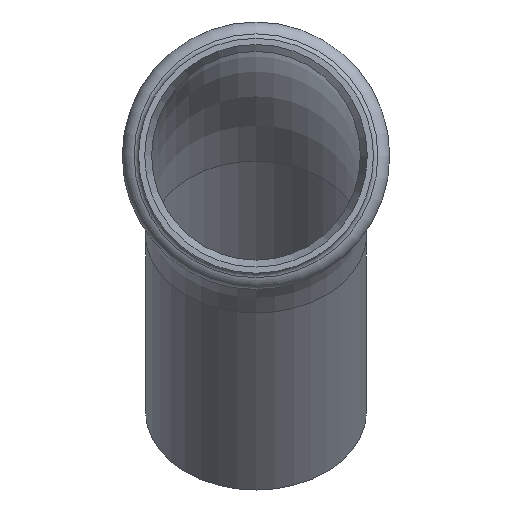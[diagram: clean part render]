
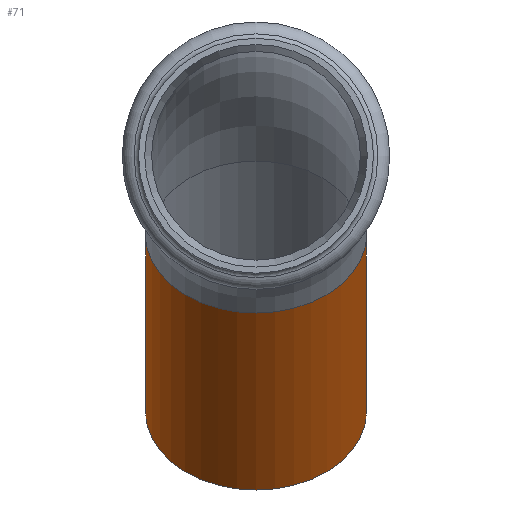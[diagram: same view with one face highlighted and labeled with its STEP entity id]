
A CAD part, front view. The second image highlights one B-rep face of the part: STEP entity #71.
In plain terms, the highlighted cylindrical face has radius 27 mm (diameter 54 mm), a full revolution.
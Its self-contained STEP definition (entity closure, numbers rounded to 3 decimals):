
#71=ADVANCED_FACE('',(#236,#238),#240,.T.);
#236=FACE_OUTER_BOUND('',#237,.T.);
#237=EDGE_LOOP('',(#305));
#238=FACE_OUTER_BOUND('',#239,.T.);
#239=EDGE_LOOP('',(#306));
#240=CYLINDRICAL_SURFACE('',#241,27.);
#241=AXIS2_PLACEMENT_3D('',#242,#243,#244);
#242=CARTESIAN_POINT('',(0.,97.831,-19.331));
#243=DIRECTION('',(0.,0.707,-0.707));
#244=DIRECTION('',(-1.,0.,0.));
#305=ORIENTED_EDGE('',*,*,#333,.F.);
#306=ORIENTED_EDGE('',*,*,#335,.T.);
#333=EDGE_CURVE('',#378,#378,#379,.T.);
#335=EDGE_CURVE('',#382,#382,#383,.T.);
#378=VERTEX_POINT('',#488);
#379=CIRCLE('',#489,27.);
#382=VERTEX_POINT('',#498);
#383=CIRCLE('',#499,27.);
#488=CARTESIAN_POINT('',(-27.,141.079,-62.579));
#489=AXIS2_PLACEMENT_3D('',#490,#491,#492);
#490=CARTESIAN_POINT('',(0.,141.079,-62.579));
#491=DIRECTION('',(0.,0.707,-0.707));
#492=DIRECTION('',(-1.,0.,0.));
#498=CARTESIAN_POINT('',(-27.,97.831,-19.331));
#499=AXIS2_PLACEMENT_3D('',#500,#501,#502);
#500=CARTESIAN_POINT('',(0.,97.831,-19.331));
#501=DIRECTION('',(0.,0.707,-0.707));
#502=DIRECTION('',(-1.,0.,0.));
